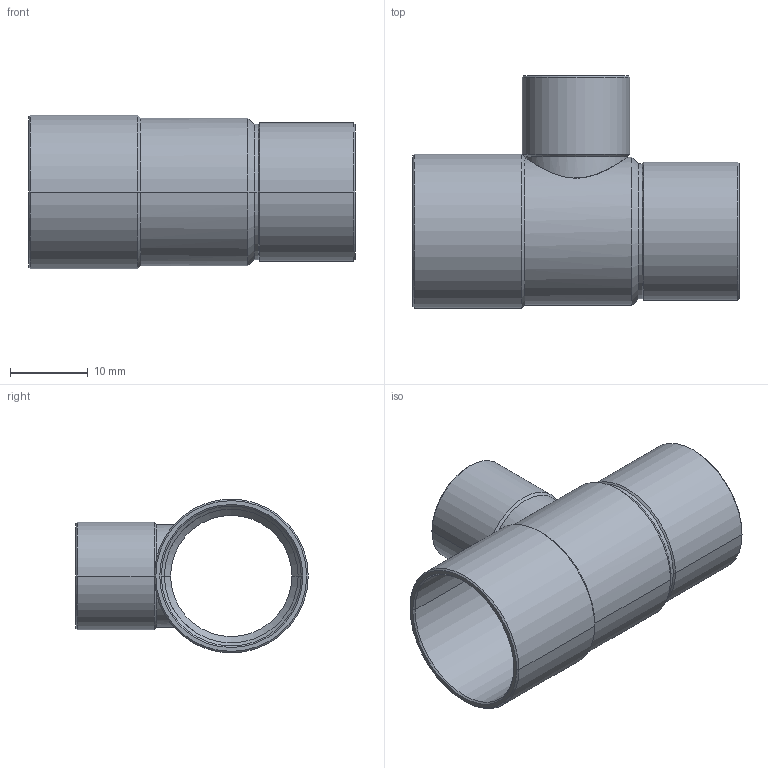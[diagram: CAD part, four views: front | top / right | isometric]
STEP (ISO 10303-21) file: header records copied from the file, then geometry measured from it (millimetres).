
FILE_DESCRIPTION((''),'2;1');
FILE_NAME('P:\Bouwmaten\z-maattekeningen 3D\5000\5130\5130181216.stp','2005-10-26T11:53:21',('Kris'),(''),'Autodesk Inventor 8','Autodesk Inventor 8','');
FILE_SCHEMA(('AUTOMOTIVE_DESIGN { 1 0 10303 214 1 1 1 1 }'));
Length unit declared in the file: millimetre
Products named in the file (1): 5130181216
Bounding box: 42 x 29.9 x 19.8 mm (x, y, z)
Volume: 2470.8 mm3; surface area: 5626.8 mm2
Topology: 1 solids, 1 shells, 57 faces, 125 edges, 69 vertices
Faces by surface type: cone 28, cylinder 24, plane 3, bspline 2
Entity records: 2127 total; most frequent: CARTESIAN_POINT 851, DIRECTION 279, ORIENTED_EDGE 250, EDGE_CURVE 125, AXIS2_PLACEMENT_3D 113, VERTEX_POINT 69, EDGE_LOOP 60, CIRCLE 57
